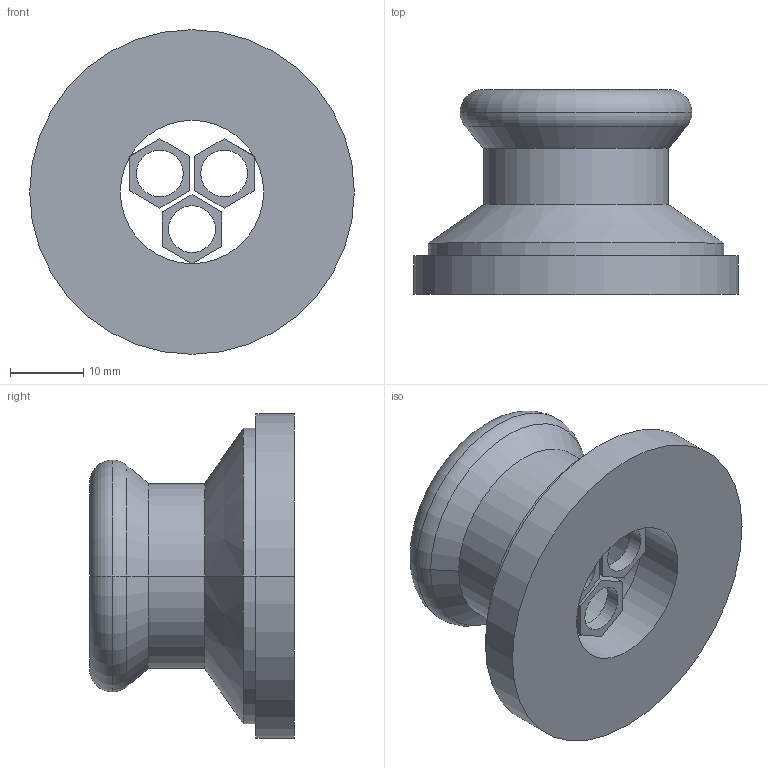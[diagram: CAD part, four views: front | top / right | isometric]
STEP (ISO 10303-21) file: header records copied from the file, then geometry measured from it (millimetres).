
FILE_DESCRIPTION(('OneSpaceDesigner STEP Export'),'2;1');
FILE_NAME('R2736 22x1 1-2.stp','2010-06-10T14:05:10',(''),(''),'OneSpace Designer STEP processor for AP214 (Solid Model)','OneSpace Modeling 15.00A 14-Mar-2007 (C) CoCreate Software GmbH','');
FILE_SCHEMA(('AUTOMOTIVE_DESIGN { 1 0 10303 214 1 1 1 1 }'));
Length unit declared in the file: millimetre
Products named in the file (2): R2736_22x1.1-2
Assembly tree (1 placements, depth 2):
  R2736_22x1.1-2
    R2736_22x1.1-2
Bounding box: 44.4 x 28 x 44.4 mm (x, y, z)
Volume: 14194.8 mm3; surface area: 7654.6 mm2
Topology: 1 solids, 1 shells, 61 faces, 149 edges, 96 vertices
Faces by surface type: plane 32, cylinder 21, torus 4, cone 4
Entity records: 1652 total; most frequent: ORIENTED_EDGE 298, CARTESIAN_POINT 266, DIRECTION 249, EDGE_CURVE 149, VERTEX_POINT 96, VECTOR 91, LINE 91, AXIS2_PLACEMENT_3D 79
